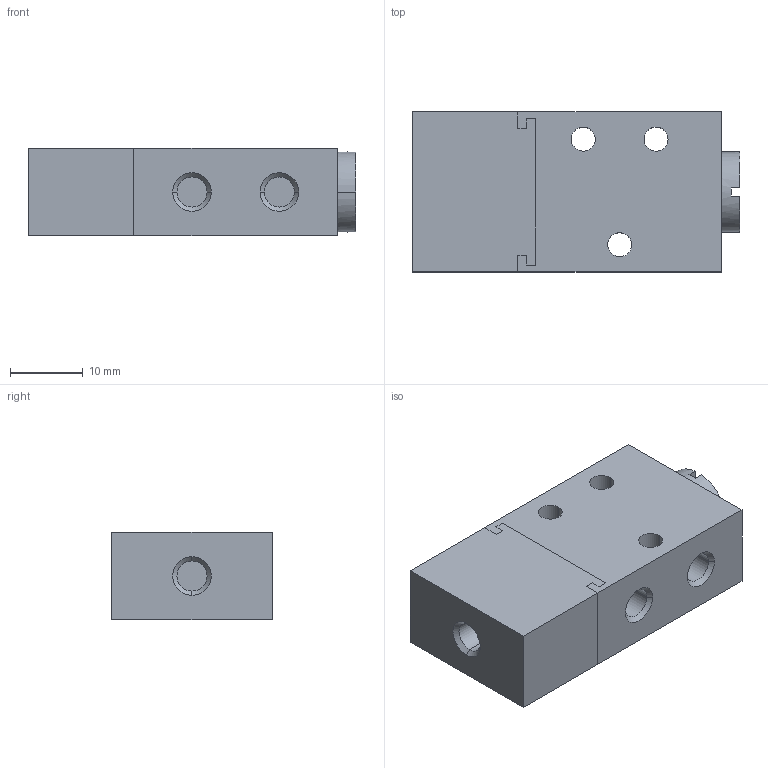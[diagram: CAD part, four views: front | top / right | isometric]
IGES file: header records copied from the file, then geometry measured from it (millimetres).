
Global section: file name: No Iges File Name specified; native system: AutoDesk Inventor R12.0; preprocessor: AutoDesk Inventor Iges Exporter R12.0; date: 20080225.141242; units: millimetre
Bounding box: 45 x 22 x 12 mm (x, y, z)
Volume: 10835.6 mm3; surface area: 4890.5 mm2
Topology: 2 solids, 2 shells, 61 faces, 148 edges, 96 vertices
Faces by surface type: plane 33, bspline 20, revolution 6, cylinder 2
